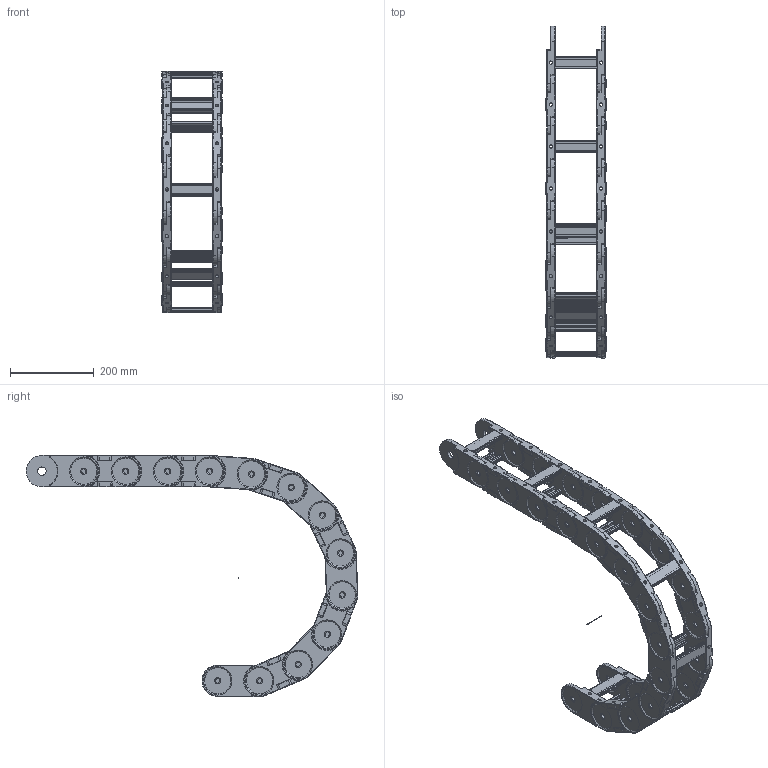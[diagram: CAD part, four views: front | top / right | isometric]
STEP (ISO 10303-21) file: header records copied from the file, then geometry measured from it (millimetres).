
FILE_DESCRIPTION((''),'2;1');
FILE_NAME('C:\Uebbing\TRACE PARTS\PLE\PLE 320\PLE 320 vereinfacht.stp','2013-05-29T13:19:25',('Uebbing'),(''),'Autodesk Inventor 10','Autodesk Inventor 10','');
FILE_SCHEMA(('AUTOMOTIVE_DESIGN { 1 0 10303 214 1 1 1 1 }'));
Length unit declared in the file: millimetre
Products named in the file (4): PLE 320 vereinfacht; Achse; PLE 320 Glied vereinfacht; PLE 320 Glied ohne Steg vereinfacht
Assembly tree (14 placements, depth 2):
  PLE 320 vereinfacht
    Achse
    PLE 320 Glied vereinfacht  x7
    PLE 320 Glied ohne Steg vereinfacht  x6
Bounding box: 144.1 x 791.28 x 575 mm (x, y, z)
Volume: 3576379.5 mm3; surface area: 1083629.9 mm2
Topology: 20 solids, 20 shells, 3011 faces, 8490 edges, 5513 vertices
Faces by surface type: plane 1430, cylinder 1077, torus 260, bspline 192, cone 52
Full cylindrical faces by diameter (mm): 1 x1, 8 x26, 11 x26, 19.9 x26, 20.2 x26
Entity records: 15767 total; most frequent: CARTESIAN_POINT 2993, DIRECTION 2662, ORIENTED_EDGE 2628, EDGE_CURVE 1314, AXIS2_PLACEMENT_3D 899, VERTEX_POINT 874, VECTOR 864, LINE 864
